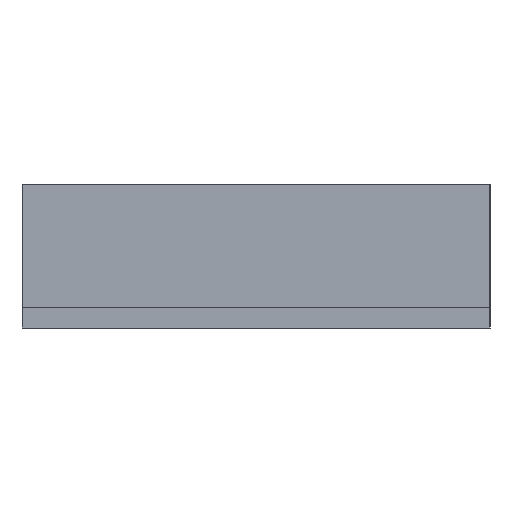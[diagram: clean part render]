
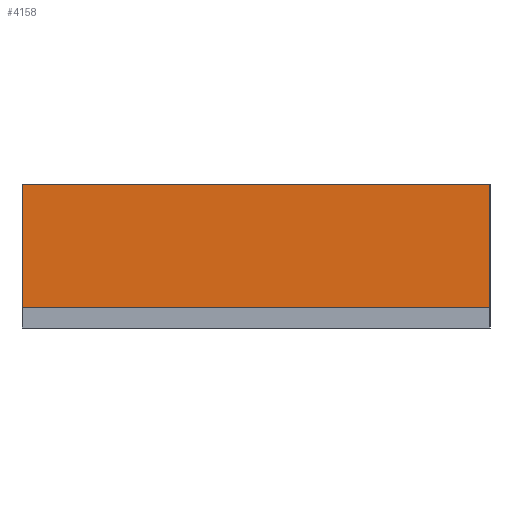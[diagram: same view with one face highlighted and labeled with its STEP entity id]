
A CAD part, left-side view. The second image highlights one B-rep face of the part: STEP entity #4158.
In plain terms, the highlighted planar face has unit normal (-1, 0, 0).
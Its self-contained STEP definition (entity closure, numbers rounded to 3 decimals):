
#359=FACE_OUTER_BOUND('',#617,.T.);
#617=EDGE_LOOP('',(#3704,#3705,#3706,#3707));
#1122=LINE('',#6855,#1638);
#1123=LINE('',#6858,#1639);
#1124=LINE('',#6860,#1640);
#1125=LINE('',#6861,#1641);
#1638=VECTOR('',#5240,10.);
#1639=VECTOR('',#5243,10.);
#1640=VECTOR('',#5244,10.);
#1641=VECTOR('',#5245,10.);
#2032=VERTEX_POINT('',#6851);
#2033=VERTEX_POINT('',#6853);
#2034=VERTEX_POINT('',#6857);
#2035=VERTEX_POINT('',#6859);
#2604=EDGE_CURVE('',#2032,#2033,#1122,.T.);
#2605=EDGE_CURVE('',#2032,#2034,#1123,.T.);
#2606=EDGE_CURVE('',#2035,#2033,#1124,.T.);
#2607=EDGE_CURVE('',#2034,#2035,#1125,.T.);
#3704=ORIENTED_EDGE('',*,*,#2605,.F.);
#3705=ORIENTED_EDGE('',*,*,#2604,.T.);
#3706=ORIENTED_EDGE('',*,*,#2606,.F.);
#3707=ORIENTED_EDGE('',*,*,#2607,.F.);
#3951=PLANE('',#4365);
#4158=ADVANCED_FACE('',(#359),#3951,.T.);
#4365=AXIS2_PLACEMENT_3D('',#6856,#5241,#5242);
#5240=DIRECTION('',(0.,1.,0.));
#5241=DIRECTION('center_axis',(-1.,0.,0.));
#5242=DIRECTION('ref_axis',(0.,0.,1.));
#5243=DIRECTION('',(0.,0.,-1.));
#5244=DIRECTION('',(0.,0.,1.));
#5245=DIRECTION('',(0.,1.,0.));
#6851=CARTESIAN_POINT('',(0.,0.,0.));
#6853=CARTESIAN_POINT('',(0.,130.,0.));
#6855=CARTESIAN_POINT('',(0.,0.,0.));
#6856=CARTESIAN_POINT('Origin',(0.,0.,-34.4));
#6857=CARTESIAN_POINT('',(0.,0.,-34.4));
#6858=CARTESIAN_POINT('',(0.,0.,0.));
#6859=CARTESIAN_POINT('',(0.,130.,-34.4));
#6860=CARTESIAN_POINT('',(0.,130.,0.));
#6861=CARTESIAN_POINT('',(0.,0.,-34.4));
